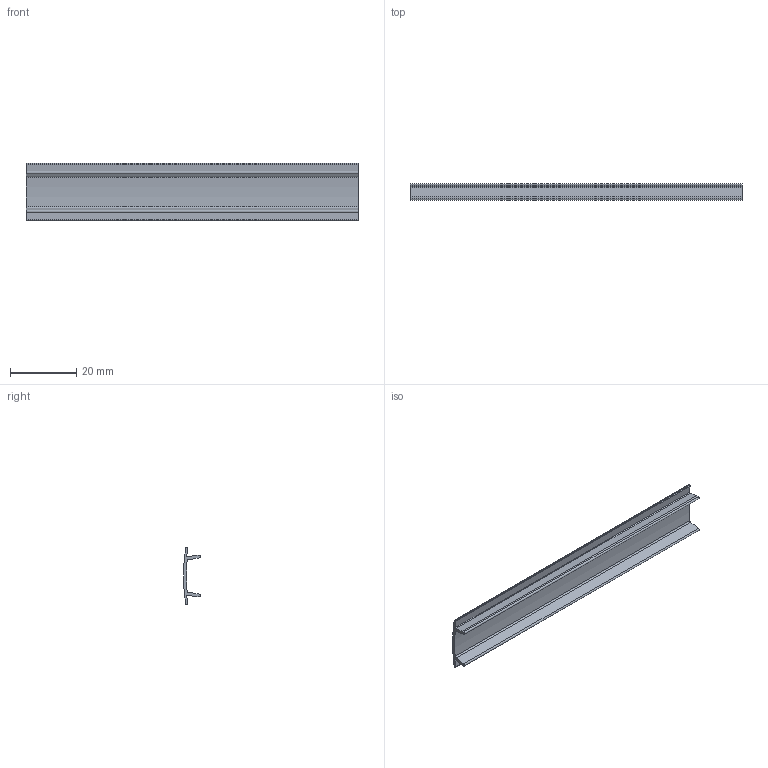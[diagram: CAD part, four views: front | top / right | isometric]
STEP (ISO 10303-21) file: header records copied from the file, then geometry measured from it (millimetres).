
FILE_DESCRIPTION(/* description */ ('Cover for LED Rails'),/* implementation_level */ '2;1');
FILE_NAME(/* name */ 'D:\$Workingspace\Designs\Profile\137 - Profil LED nakładany mały\MOOV pliki\pliki 3ds\PA-OSTRGLAX-00.stp',/* time_stamp */ '2018-01-09T16:00:21+01:00',/* author */ ('tomaszw'),/* organization */ (''),/* preprocessor_version */ 'ST-DEVELOPER v16.1',/* originating_system */ 'Autodesk Inventor 2016',/* authorisation */ '');
FILE_SCHEMA (('CONFIG_CONTROL_DESIGN'));
Length unit declared in the file: millimetre
Products named in the file (1): Cover for LED Rails
Bounding box: 100 x 5.03 x 17.36 mm (x, y, z)
Volume: 2101.1 mm3; surface area: 5080.4 mm2
Topology: 1 solids, 1 shells, 24 faces, 66 edges, 44 vertices
Faces by surface type: cylinder 12, plane 12
Entity records: 798 total; most frequent: DIRECTION 140, CARTESIAN_POINT 135, ORIENTED_EDGE 132, EDGE_CURVE 66, AXIS2_PLACEMENT_3D 49, VERTEX_POINT 44, LINE 42, VECTOR 42
